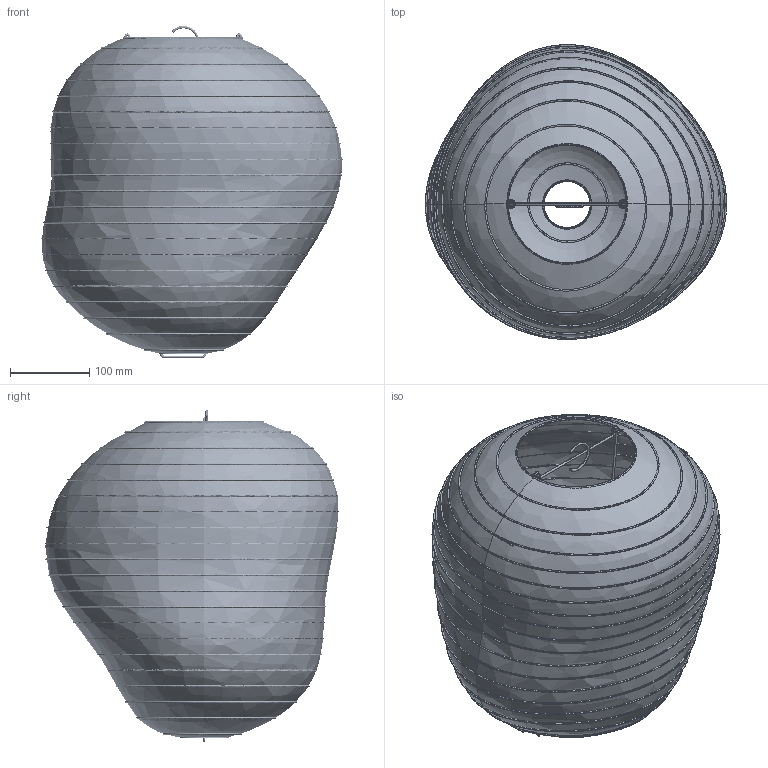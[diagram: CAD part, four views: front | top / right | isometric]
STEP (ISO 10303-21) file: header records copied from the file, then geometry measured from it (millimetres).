
FILE_DESCRIPTION(/* description */ (''),/* implementation_level */ '2;1');
FILE_NAME(/* name */ 'Kurbis_Lampshade_40_3D',/* time_stamp */ '2023-07-20T13:58:26+02:00',/* author */ (''),/* organization */ (''),/* preprocessor_version */ 'ST-DEVELOPER v16.5',/* originating_system */ 'Rhino 7.31',/* authorisation */ '');
FILE_SCHEMA (('CONFIG_CONTROL_DESIGN'));
Length unit declared in the file: millimetre
Products named in the file (1): Document
Bounding box: 379.84 x 371.51 x 418.4 mm (x, y, z)
Volume: 72742.5 mm3; surface area: 655675 mm2
Topology: 29 solids, 38 shells, 194 faces, 412 edges, 216 vertices
Faces by surface type: bspline 180, cylinder 14
Entity records: 37876 total; most frequent: CARTESIAN_POINT 35661, ORIENTED_EDGE 780, EDGE_CURVE 408, VERTEX_POINT 216, ADVANCED_FACE 194, FACE_OUTER_BOUND 194, EDGE_LOOP 194, MANIFOLD_SOLID_BREP 29
